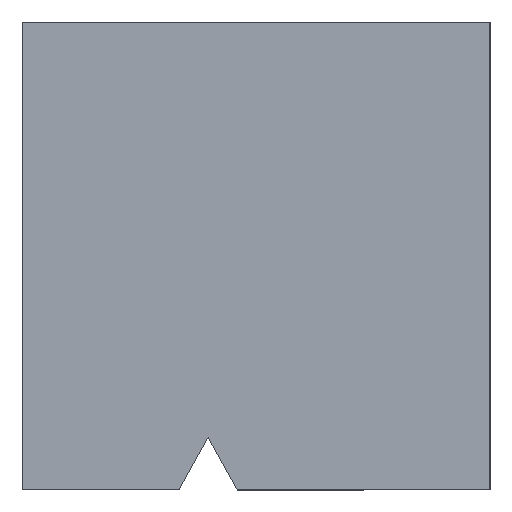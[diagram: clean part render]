
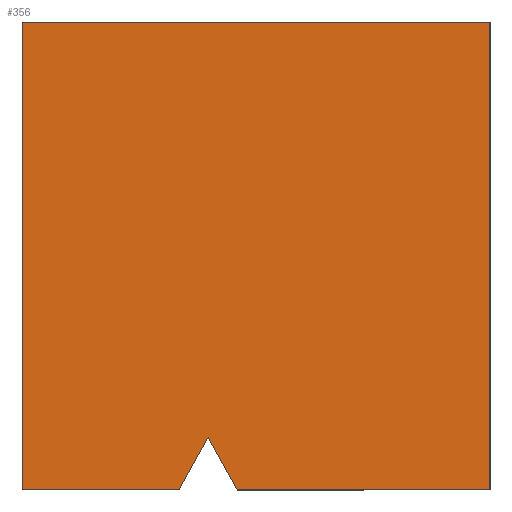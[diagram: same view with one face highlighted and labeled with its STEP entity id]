
A CAD part, left-side view. The second image highlights one B-rep face of the part: STEP entity #356.
In plain terms, the highlighted planar face has unit normal (-1, 0, 0).
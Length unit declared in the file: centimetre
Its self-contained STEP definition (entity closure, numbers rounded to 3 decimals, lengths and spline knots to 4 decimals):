
#68 = VERTEX_POINT ( 'NONE', #534 ) ;
#96 = VERTEX_POINT ( 'NONE', #737 ) ;
#109 = VECTOR ( 'NONE', #1313, 100. ) ;
#159 = DIRECTION ( 'NONE',  ( 0., 0., -1. ) ) ;
#174 = VERTEX_POINT ( 'NONE', #761 ) ;
#184 = ORIENTED_EDGE ( 'NONE', *, *, #1354, .T. ) ;
#197 = VECTOR ( 'NONE', #1077, 100. ) ;
#216 = DIRECTION ( 'NONE',  ( 0., 0., -1. ) ) ;
#236 = LINE ( 'NONE', #657, #197 ) ;
#239 = CARTESIAN_POINT ( 'NONE',  ( 0., 664.4638, 0. ) ) ;
#259 = LINE ( 'NONE', #1306, #1051 ) ;
#285 = VERTEX_POINT ( 'NONE', #239 ) ;
#303 = DIRECTION ( 'NONE',  ( 0., -1., 0. ) ) ;
#356 = ADVANCED_FACE ( 'NONE', ( #988 ), #579, .F. ) ;
#397 = EDGE_CURVE ( 'NONE', #96, #68, #840, .T. ) ;
#421 = LINE ( 'NONE', #631, #836 ) ;
#427 = EDGE_CURVE ( 'NONE', #285, #708, #421, .T. ) ;
#457 = ORIENTED_EDGE ( 'NONE', *, *, #835, .T. ) ;
#480 = CARTESIAN_POINT ( 'NONE',  ( 0., 1000., 0. ) ) ;
#534 = CARTESIAN_POINT ( 'NONE',  ( 0., 0., 1000. ) ) ;
#551 = VECTOR ( 'NONE', #216, 100. ) ;
#579 = PLANE ( 'NONE',  #880 ) ;
#588 = EDGE_CURVE ( 'NONE', #68, #736, #1264, .T. ) ;
#605 = EDGE_LOOP ( 'NONE', ( #634, #184, #457, #753, #1021, #1326, #1020 ) ) ;
#606 = EDGE_CURVE ( 'NONE', #96, #854, #236, .T. ) ;
#608 = CARTESIAN_POINT ( 'NONE',  ( 0., 1000., 1000. ) ) ;
#614 = VECTOR ( 'NONE', #1044, 100. ) ;
#631 = CARTESIAN_POINT ( 'NONE',  ( 0., 602.5011, 112.7323 ) ) ;
#634 = ORIENTED_EDGE ( 'NONE', *, *, #427, .T. ) ;
#657 = CARTESIAN_POINT ( 'NONE',  ( 0., 1000., 1000. ) ) ;
#670 = DIRECTION ( 'NONE',  ( 0., -0.482, -0.876 ) ) ;
#708 = VERTEX_POINT ( 'NONE', #879 ) ;
#736 = VERTEX_POINT ( 'NONE', #1332 ) ;
#737 = CARTESIAN_POINT ( 'NONE',  ( 0., 1000., 1000. ) ) ;
#738 = CARTESIAN_POINT ( 'NONE',  ( 0., 0., 1000. ) ) ;
#753 = ORIENTED_EDGE ( 'NONE', *, *, #588, .F. ) ;
#761 = CARTESIAN_POINT ( 'NONE',  ( 0., 540.5384, 0. ) ) ;
#835 = EDGE_CURVE ( 'NONE', #174, #736, #1325, .T. ) ;
#836 = VECTOR ( 'NONE', #1137, 100. ) ;
#840 = LINE ( 'NONE', #608, #1233 ) ;
#852 = LINE ( 'NONE', #1270, #614 ) ;
#854 = VERTEX_POINT ( 'NONE', #908 ) ;
#879 = CARTESIAN_POINT ( 'NONE',  ( 0., 602.5011, 112.7323 ) ) ;
#880 = AXIS2_PLACEMENT_3D ( 'NONE', #1309, #1180, #159 ) ;
#908 = CARTESIAN_POINT ( 'NONE',  ( 0., 1000., 0. ) ) ;
#976 = EDGE_CURVE ( 'NONE', #854, #285, #852, .T. ) ;
#988 = FACE_OUTER_BOUND ( 'NONE', #605, .T. ) ;
#1020 = ORIENTED_EDGE ( 'NONE', *, *, #976, .T. ) ;
#1021 = ORIENTED_EDGE ( 'NONE', *, *, #397, .F. ) ;
#1044 = DIRECTION ( 'NONE',  ( 0., -1., 0. ) ) ;
#1051 = VECTOR ( 'NONE', #670, 100. ) ;
#1077 = DIRECTION ( 'NONE',  ( 0., 0., -1. ) ) ;
#1137 = DIRECTION ( 'NONE',  ( 0., -0.482, 0.876 ) ) ;
#1180 = DIRECTION ( 'NONE',  ( 1., 0., 0. ) ) ;
#1233 = VECTOR ( 'NONE', #303, 100. ) ;
#1264 = LINE ( 'NONE', #738, #551 ) ;
#1270 = CARTESIAN_POINT ( 'NONE',  ( 0., 1000., 0. ) ) ;
#1306 = CARTESIAN_POINT ( 'NONE',  ( 0., 540.5384, 0. ) ) ;
#1309 = CARTESIAN_POINT ( 'NONE',  ( 0., 1000., 1000. ) ) ;
#1313 = DIRECTION ( 'NONE',  ( 0., -1., 0. ) ) ;
#1325 = LINE ( 'NONE', #480, #109 ) ;
#1326 = ORIENTED_EDGE ( 'NONE', *, *, #606, .T. ) ;
#1332 = CARTESIAN_POINT ( 'NONE',  ( 0., 0., 0. ) ) ;
#1354 = EDGE_CURVE ( 'NONE', #708, #174, #259, .T. ) ;
